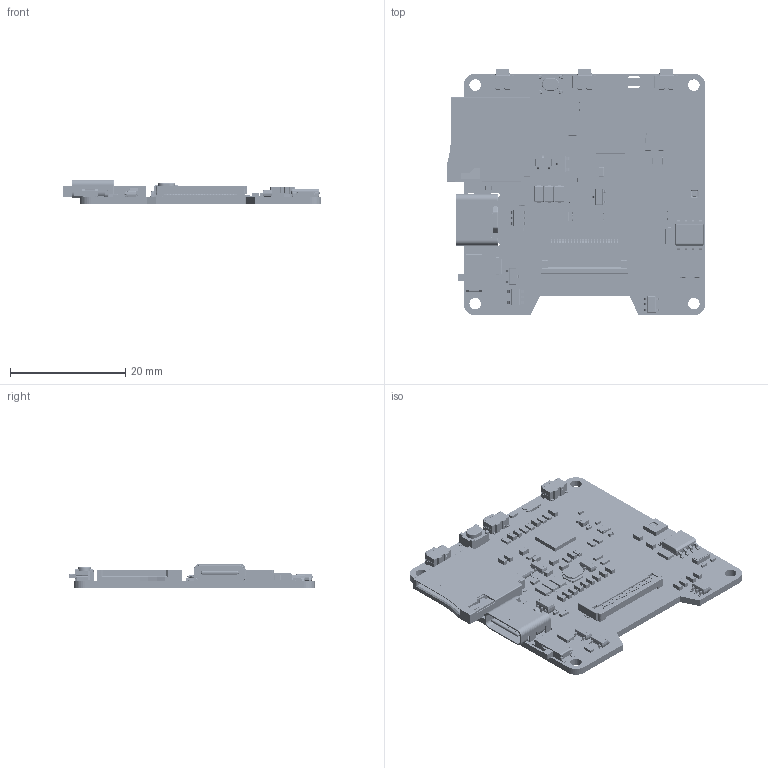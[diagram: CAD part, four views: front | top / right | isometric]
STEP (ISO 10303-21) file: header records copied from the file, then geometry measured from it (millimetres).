
FILE_DESCRIPTION(('Designed by EasyEDA Pro'),'2;1');
FILE_NAME('Open CASCADE Shape Model','2026-03-27T09:45:18',('Author'),( 'Open CASCADE'),'Open CASCADE STEP processor 7.8','Open CASCADE 7.8' ,'Unknown');
FILE_SCHEMA(('AUTOMOTIVE_DESIGN { 1 0 10303 214 1 1 1 1 }'));
Length unit declared in the file: millimetre
Products named in the file (116): EasyEDA PCB Model~2BQj; Board~2BQj; TopCopper~2BQj; BottomCopper~2BQj; TopSilkscreen~2BQj; BottomSilkscreen~2BQj; TopFpcStiffener~2BQj; BottomFpcStiffener~2BQj; C0402~C0402_L1.0-W0.5-H0.5~v4nC; C6~C0402~C0402_L1.0-W0.5-H0.5~D7pI; C8~C0402~C0402_L1.0-W0.5-H0.5~Mp6K; C9~C0402~C0402_L1.0-W0.5-H0.5~DtBo; C17~C0402~C0402_L1.0-W0.5-H0.5~CgF9; C18~C0402~C0402_L1.0-W0.5-H0.5~Ia2f; FPC-SMD_24P-L17.5-W5.4-P0.50~FPC-SMD_P0.50-WS-24P~vDb5; FPC2~FPC-SMD_24P-L17.5-W5.4-P0.50~FPC-SMD_P0.50-WS-24P~NQVV; C0603~C0603_L1.6-W0.8-H0.8~FQcn; C1~C0603~C0603_L1.6-W0.8-H0.8~ECfK; C36~C0603~C0603_L1.6-W0.8-H0.8~VskA; C4~C0603~C0603_L1.6-W0.8-H0.8~083x; C22~C0603~C0603_L1.6-W0.8-H0.8~5FbG; C23~C0603~C0603_L1.6-W0.8-H0.8~DHHL; C25~C0603~C0603_L1.6-W0.8-H0.8~FPGq; C26~C0603~C0603_L1.6-W0.8-H0.8~IrGz; C27~C0603~C0603_L1.6-W0.8-H0.8~45rv; C28~C0603~C0603_L1.6-W0.8-H0.8~h0yj; C29~C0603~C0603_L1.6-W0.8-H0.8~nbk0; C30~C0603~C0603_L1.6-W0.8-H0.8~gJSl; C31~C0603~C0603_L1.6-W0.8-H0.8~6843; C2~C0603~C0603_L1.6-W0.8-H0.8~bXWF; C34~C0603~C0603_L1.6-W0.8-H0.8~LziD; C3~C0603~C0603_L1.6-W0.8-H0.8~yujp; C5~C0603~C0603_L1.6-W0.8-H0.8~IxtY; C19~C0603~C0603_L1.6-W0.8-H0.8~NmMv; C7~C0603~C0603_L1.6-W0.8-H0.8~drKd; C10~C0603~C0603_L1.6-W0.8-H0.8~BJ21; C11~C0603~C0603_L1.6-W0.8-H0.8~q5ts; C12~C0603~C0603_L1.6-W0.8-H0.8~k5bO; C13~C0603~C0603_L1.6-W0.8-H0.8~A7K4; C16~C0603~C0603_L1.6-W0.8-H0.8~6And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
Assembly tree (171 placements, depth 3):
  EasyEDA PCB Model~2BQj
    Board~2BQj
    TopCopper~2BQj
    BottomCopper~2BQj
    TopSilkscreen~2BQj
    BottomSilkscreen~2BQj
    TopFpcStiffener~2BQj
    BottomFpcStiffener~2BQj
    C6~C0402~C0402_L1.0-W0.5-H0.5~D7pI
      C0402~C0402_L1.0-W0.5-H0.5~v4nC
    C8~C0402~C0402_L1.0-W0.5-H0.5~Mp6K
      C0402~C0402_L1.0-W0.5-H0.5~v4nC
    C9~C0402~C0402_L1.0-W0.5-H0.5~DtBo
      C0402~C0402_L1.0-W0.5-H0.5~v4nC
    C17~C0402~C0402_L1.0-W0.5-H0.5~CgF9
      C0402~C0402_L1.0-W0.5-H0.5~v4nC
    C18~C0402~C0402_L1.0-W0.5-H0.5~Ia2f
      C0402~C0402_L1.0-W0.5-H0.5~v4nC
    FPC2~FPC-SMD_24P-L17.5-W5.4-P0.50~FPC-SMD_P0.50-WS-24P~NQVV
      FPC-SMD_24P-L17.5-W5.4-P0.50~FPC-SMD_P0.50-WS-24P~vDb5
    C1~C0603~C0603_L1.6-W0.8-H0.8~ECfK
      C0603~C0603_L1.6-W0.8-H0.8~FQcn
    C36~C0603~C0603_L1.6-W0.8-H0.8~VskA
      C0603~C0603_L1.6-W0.8-H0.8~FQcn
    C4~C0603~C0603_L1.6-W0.8-H0.8~083x
      C0603~C0603_L1.6-W0.8-H0.8~FQcn
    C22~C0603~C0603_L1.6-W0.8-H0.8~5FbG
      C0603~C0603_L1.6-W0.8-H0.8~FQcn
    C23~C0603~C0603_L1.6-W0.8-H0.8~DHHL
      C0603~C0603_L1.6-W0.8-H0.8~FQcn
    C25~C0603~C0603_L1.6-W0.8-H0.8~FPGq
      C0603~C0603_L1.6-W0.8-H0.8~FQcn
    C26~C0603~C0603_L1.6-W0.8-H0.8~IrGz
      C0603~C0603_L1.6-W0.8-H0.8~FQcn
    C27~C0603~C0603_L1.6-W0.8-H0.8~45rv
      C0603~C0603_L1.6-W0.8-H0.8~FQcn
    C28~C0603~C0603_L1.6-W0.8-H0.8~h0yj
      C0603~C0603_L1.6-W0.8-H0.8~FQcn
    C29~C0603~C0603_L1.6-W0.8-H0.8~nbk0
      C0603~C0603_L1.6-W0.8-H0.8~FQcn
    C30~C0603~C0603_L1.6-W0.8-H0.8~gJSl
      C0603~C0603_L1.6-W0.8-H0.8~FQcn
    C31~C0603~C0603_L1.6-W0.8-H0.8~6843
      C0603~C0603_L1.6-W0.8-H0.8~FQcn
    C2~C0603~C0603_L1.6-W0.8-H0.8~bXWF
      C0603~C0603_L1.6-W0.8-H0.8~FQcn
    C34~C0603~C0603_L1.6-W0.8-H0.8~LziD
      C0603~C0603_L1.6-W0.8-H0.8~FQcn
    C3~C0603~C0603_L1.6-W0.8-H0.8~yujp
      C0603~C0603_L1.6-W0.8-H0.8~FQcn
    C5~C0603~C0603_L1.6-W0.8-H0.8~IxtY
      C0603~C0603_L1.6-W0.8-H0.8~FQcn
    C19~C0603~C0603_L1.6-W0.8-H0.8~NmMv
      C0603~C0603_L1.6-W0.8-H0.8~FQcn
    C7~C0603~C0603_L1.6-W0.8-H0.8~drKd
      C0603~C0603_L1.6-W0.8-H0.8~FQcn
    C10~C0603~C0603_L1.6-W0.8-H0.8~BJ21
      C0603~C0603_L1.6-W0.8-H0.8~FQcn
    C11~C0603~C0603_L1.6-W0.8-H0.8~q5ts
      C0603~C0603_L1.6-W0.8-H0.8~FQcn
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Bounding box: 44.93 x 42.81 x 4.32 mm (x, y, z)
Volume: 2822.7 mm3; surface area: 7639.3 mm2
Topology: 444 solids, 852 shells, 31429 faces, 93137 edges, 64365 vertices
Faces by surface type: plane 18398, bspline 8954, cylinder 3083, sphere 550, torus 431, cone 13
Entity records: 632053 total; most frequent: CARTESIAN_POINT 153171, ORIENTED_EDGE 73363, DIRECTION 62876, EDGE_CURVE 42123, VERTEX_POINT 31059, LINE 28748, VECTOR 28748, AXIS2_PLACEMENT_3D 17064
